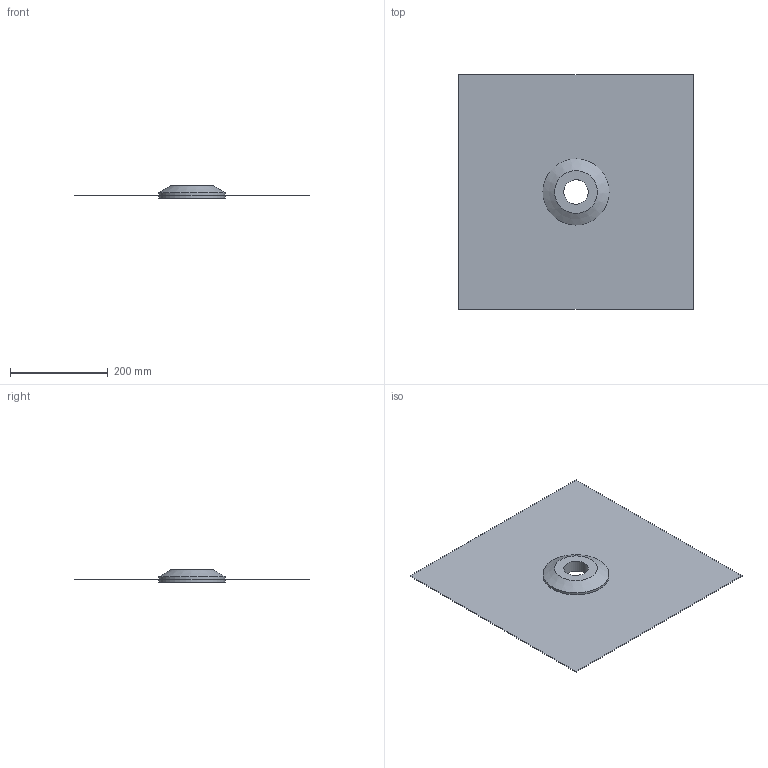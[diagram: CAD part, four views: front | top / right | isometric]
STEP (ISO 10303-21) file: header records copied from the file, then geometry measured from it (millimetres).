
FILE_DESCRIPTION(/* description */ (''),/* implementation_level */ '2;1');
FILE_NAME(/* name */ '361674.stp',/* time_stamp */ '2025-04-01T07:13:35+02:00',/* author */ ('JANAN'),/* organization */ (''),/* preprocessor_version */ 'ST-DEVELOPER v19.2',/* originating_system */ 'Autodesk Inventor 2023',/* authorisation */ '');
FILE_SCHEMA (('AUTOMOTIVE_DESIGN { 1 0 10303 214 3 1 1 }'));
Length unit declared in the file: millimetre
Products named in the file (1): tmp7B9E.tmp
Bounding box: 480 x 480 x 25 mm (x, y, z)
Volume: 506349.7 mm3; surface area: 504367 mm2
Topology: 2 solids, 2 shells, 16 faces, 29 edges, 19 vertices
Faces by surface type: plane 10, cylinder 5, cone 1
Full cylindrical faces by diameter (mm): 50 x1, 84 x2, 135 x2
Entity records: 462 total; most frequent: DIRECTION 74, CARTESIAN_POINT 65, ORIENTED_EDGE 58, EDGE_CURVE 29, AXIS2_PLACEMENT_3D 28, EDGE_LOOP 22, VERTEX_POINT 19, LINE 18
